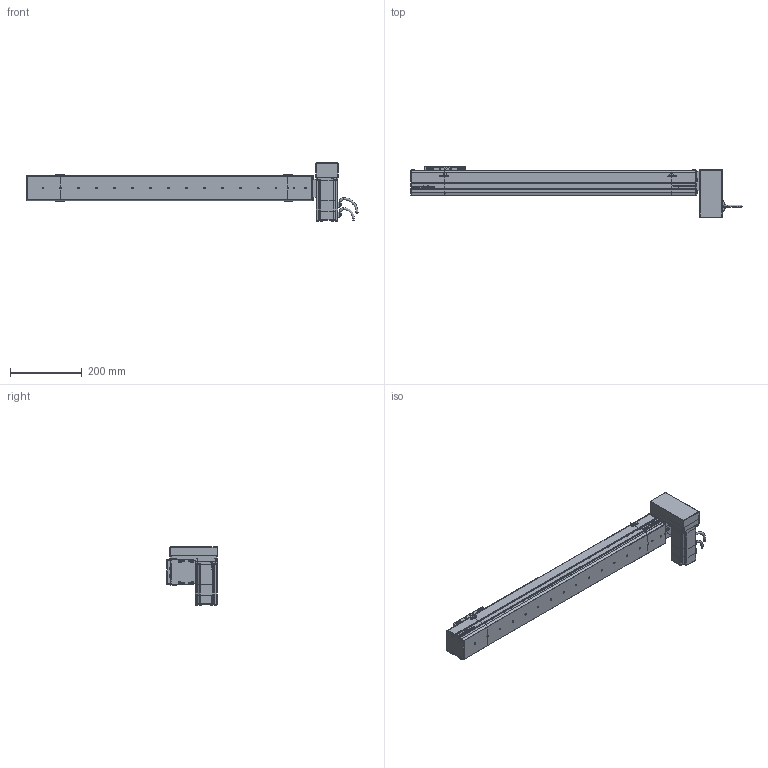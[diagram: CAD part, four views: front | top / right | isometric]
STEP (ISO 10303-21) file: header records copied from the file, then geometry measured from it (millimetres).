
FILE_DESCRIPTION (( 'STEP AP214' ), '1' );
FILE_NAME ('S07 CBN LU S700.STEP', '2010-06-29T09:59:10', ( 'Conseil Régional Haute-Normandie' ), ( 'Conseil Régional Haute-Normandie' ), 'SwSTEP 2.0', 'SolidWorks 2010', '' );
FILE_SCHEMA (( 'AUTOMOTIVE_DESIGN' ));
Length unit declared in the file: millimetre
Products named in the file (31): Corp S07 S700_Default; vis M5 L8_Default; vis M5 L15_Default; plaque de serrage Tail_Default; Plaque de bout Tail_Default; support chariot_Default; chariot_Default; Chariot S07_Default; Couvercle Tail_Default; Corp Tail_Default; Tail S07 Tail_Default; Couvercle S07 S700_Default; S07 CBN LU S700; Plaque de bout LU_Default; Corp LU_Default; Head LU_Default; Couvercle LU_Default; Cache Support Moteur LU_Default; plaque de serrage LU_Default; 60BLDC90A-640_Default; Support Moteur LU_Default; Rondelle de Serrage LU_Default; P3 90A_Default; P2 90A_Default; P1_Default; Conecteur 60BLDC_Default; Axe 60BLDC_Default; P4_Default; VisM3_Default; Conecteur2 60BLDC_Default
Assembly tree (71 placements, depth 4):
  S07 CBN LU S700
    Chariot S07_Default
      vis M5 L8_Default  x8
      support chariot_Default
      chariot_Default
    Corp S07 S700_Default
      Corp S07 S700_Default
      Couvercle S07 S700_Default
    Tail S07 Tail_Default
      Corp Tail_Default
      vis M5 L15_Default  x6
      Couvercle Tail_Default
      Plaque de bout Tail_Default
      plaque de serrage Tail_Default
    Head LU_Default
      vis M5 L15_Default  x16
      Rondelle de Serrage LU_Default  x3
      Couvercle LU_Default
      Corp LU_Default
      60BLDC90A-640_Default
        Conecteur2 60BLDC_Default
        P4_Default
        P3 90A_Default
        VisM3_Default  x12
        Axe 60BLDC_Default
        P1_Default
        Conecteur 60BLDC_Default
        P2 90A_Default
      plaque de serrage LU_Default
      Support Moteur LU_Default
      Cache Support Moteur LU_Default
      Plaque de bout LU_Default
Bounding box: 925.7 x 142 x 162 mm (x, y, z)
Volume: 4725856.6 mm3; surface area: 634487.9 mm2
Topology: 108 solids, 108 shells, 3892 faces, 9590 edges, 6172 vertices
Faces by surface type: plane 2250, bspline 756, cylinder 675, torus 112, cone 95, sphere 4
Entity records: 153353 total; most frequent: CARTESIAN_POINT 79591, ORIENTED_EDGE 14700, DIRECTION 10963, EDGE_CURVE 7350, VERTEX_POINT 4857, LINE 4773, VECTOR 4773, EDGE_LOOP 3149
